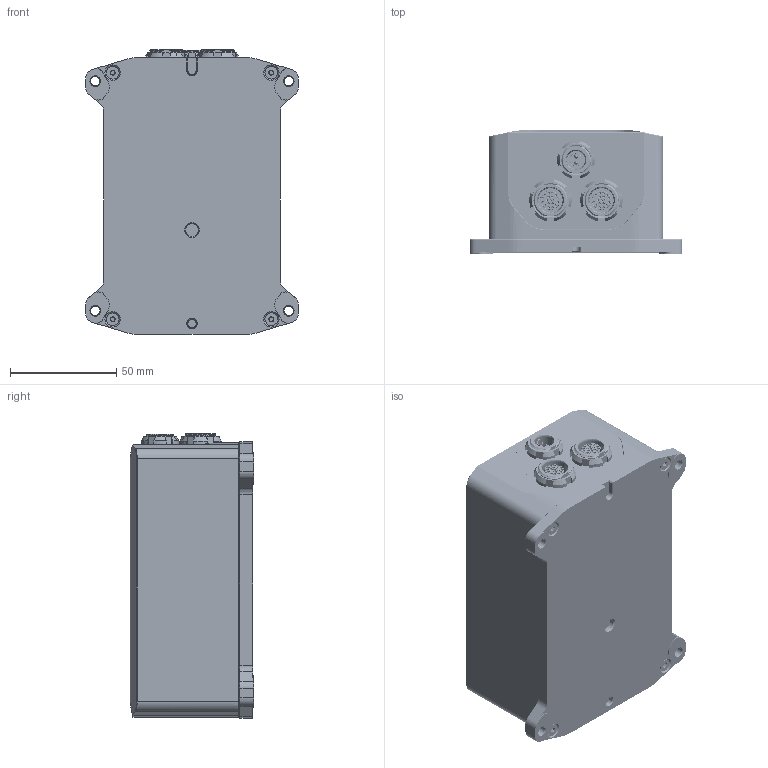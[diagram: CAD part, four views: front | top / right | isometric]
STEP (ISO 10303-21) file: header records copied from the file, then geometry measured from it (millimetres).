
FILE_DESCRIPTION (( 'STEP AP214' ), '1' );
FILE_NAME ('MC-NGIS-E.STEP', '2014-11-10T15:42:27', ( '' ), ( '' ), 'SwSTEP 2.0', 'SolidWorks 2013', '' );
FILE_SCHEMA (( 'AUTOMOTIVE_DESIGN' ));
Length unit declared in the file: millimetre
Products named in the file (1): MC-NGIS-E
Bounding box: 100 x 58 x 133.75 mm (x, y, z)
Surface area: 89115.2 mm2 (no closed solid volume)
Topology: 0 solids, 29 shells, 3588 faces, 10401 edges, 6973 vertices
Faces by surface type: cylinder 1264, plane 1250, cone 492, bspline 319, torus 261, sphere 2
Entity records: 200701 total; most frequent: CARTESIAN_POINT 75385, ORIENTED_EDGE 20574, DIRECTION 13794, EDGE_CURVE 10293, VERTEX_POINT 6969, AXIS2_PLACEMENT_3D 5096, B_SPLINE_CURVE_WITH_KNOTS 4839, EDGE_LOOP 3932
